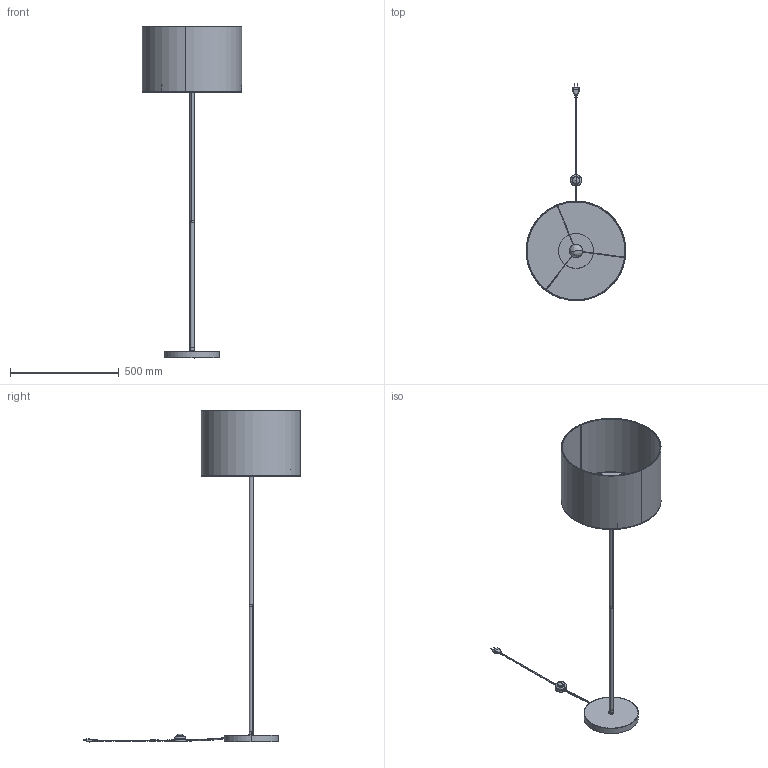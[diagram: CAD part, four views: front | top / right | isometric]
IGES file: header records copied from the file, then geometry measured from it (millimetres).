
Start section: SolidWorks IGES file using analytic representation for surfaces
Global section: file name: Z:\PRODUKT\Modele_3D_WWW\_KOLEKCJE_WWW\HOTEL\HOTEL-MOOD-11782-11790\Z³o¿enie HOTEL-9300-8981 PM.IGS; native system: SolidWorks 2024; preprocessor: SolidWorks 2024; author: anna.bielnik; date: 250424.143924; units: millimetre
Bounding box: 458.53 x 1003.49 x 1528.29 mm (x, y, z)
Surface area: 1446602.8 mm2 (no closed solid volume)
Topology: 0 solids, 0 shells, 163 faces, 3006 edges, 3004 vertices
Faces by surface type: bspline 92, revolution 71
